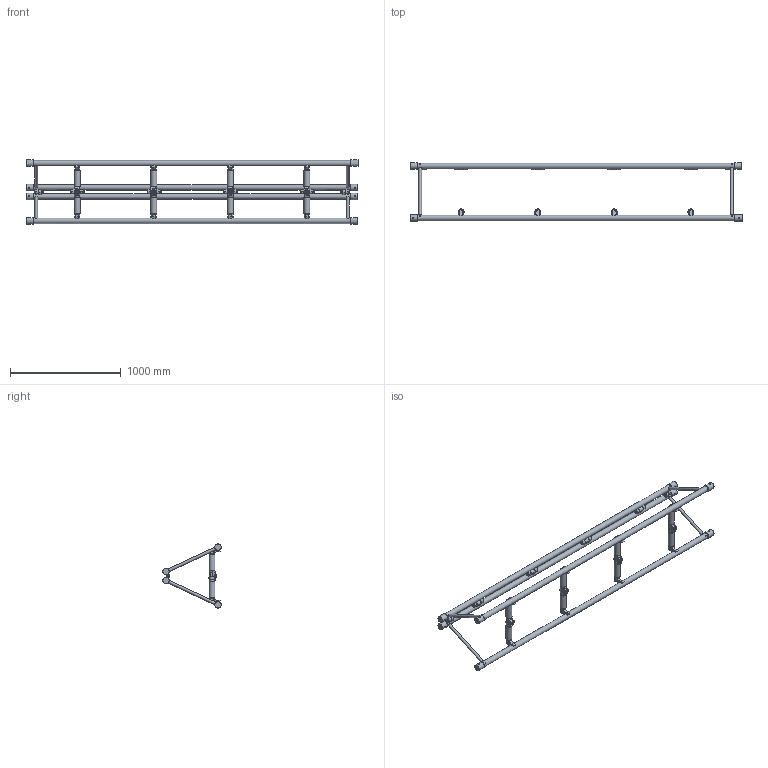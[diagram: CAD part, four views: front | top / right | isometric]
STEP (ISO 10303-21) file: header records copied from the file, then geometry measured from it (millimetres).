
FILE_DESCRIPTION(/* description */ (''),/* implementation_level */ '2;1');
FILE_NAME(/* name */ 'M:\Symbolen_NIEUW\STP\52-er truss\S52F\S52F-L300_111110089.stp',/* time_stamp */ '2017-11-10T14:46:41+01:00',/* author */ ('Kees'),/* organization */ (''),/* preprocessor_version */ 'ST-DEVELOPER v16.13',/* originating_system */ 'Autodesk Inventor 2018',/* authorisation */ '');
FILE_SCHEMA (('AUTOMOTIVE_DESIGN { 1 0 10303 214 3 1 1 }'));
Length unit declared in the file: millimetre
Products named in the file (1): 260008548
Bounding box: 3000 x 528.69 x 578.8 mm (x, y, z)
Volume: 29780975 mm3; surface area: 2750103 mm2
Topology: 15 solids, 15 shells, 1096 faces, 2804 edges, 1842 vertices
Faces by surface type: plane 722, cylinder 276, cone 98
Full cylindrical faces by diameter (mm): 10 x8, 12 x28, 12.5 x16, 12.8 x16, 13 x26, 17.4 x12, 24 x10, 25 x4, 50 x12, 54 x8, 58.8 x8
Entity records: 34305 total; most frequent: CARTESIAN_POINT 7537, DIRECTION 5318, ORIENTED_EDGE 5112, EDGE_CURVE 2556, AXIS2_PLACEMENT_3D 1945, VERTEX_POINT 1816, EDGE_LOOP 1560, LINE 1428
